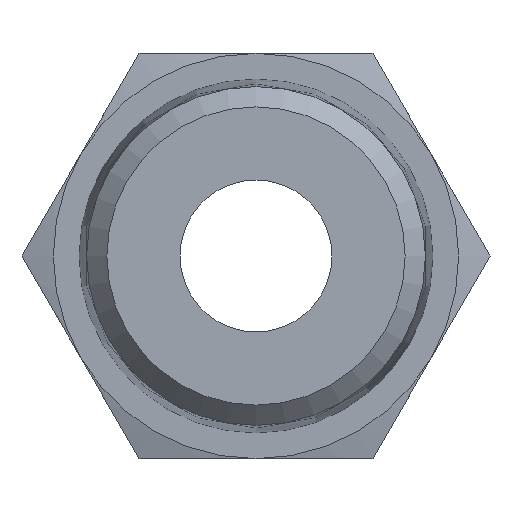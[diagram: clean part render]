
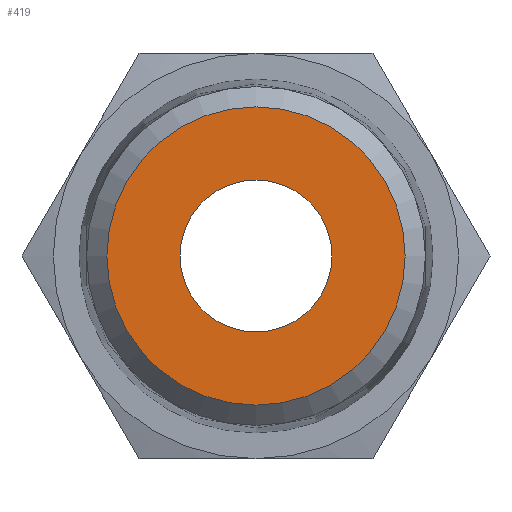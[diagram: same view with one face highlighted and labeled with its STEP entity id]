
A CAD part, left-side view. The second image highlights one B-rep face of the part: STEP entity #419.
In plain terms, the highlighted planar face has unit normal (-1, 0, 0).
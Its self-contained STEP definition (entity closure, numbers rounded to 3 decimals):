
#37=PLANE('',#476);
#59=CIRCLE('',#477,8.832);
#60=CIRCLE('',#478,4.5);
#108=ORIENTED_EDGE('',*,*,#218,.F.);
#109=ORIENTED_EDGE('',*,*,#219,.T.);
#218=EDGE_CURVE('',#261,#261,#59,.T.);
#219=EDGE_CURVE('',#262,#262,#60,.T.);
#261=VERTEX_POINT('',#778);
#262=VERTEX_POINT('',#780);
#310=EDGE_LOOP('',(#108));
#311=EDGE_LOOP('',(#109));
#356=FACE_BOUND('',#310,.T.);
#357=FACE_BOUND('',#311,.T.);
#419=ADVANCED_FACE('',(#356,#357),#37,.F.);
#476=AXIS2_PLACEMENT_3D('',#776,#559,#560);
#477=AXIS2_PLACEMENT_3D('',#777,#561,#562);
#478=AXIS2_PLACEMENT_3D('',#779,#563,#564);
#559=DIRECTION('',(1.,0.,0.));
#560=DIRECTION('',(0.,0.,-1.));
#561=DIRECTION('',(1.,0.,0.));
#562=DIRECTION('',(0.,0.,-1.));
#563=DIRECTION('',(1.,0.,0.));
#564=DIRECTION('',(0.,0.,-1.));
#776=CARTESIAN_POINT('',(0.,0.,0.));
#777=CARTESIAN_POINT('',(0.,0.,0.));
#778=CARTESIAN_POINT('',(0.,0.,-8.832));
#779=CARTESIAN_POINT('',(0.,0.,0.));
#780=CARTESIAN_POINT('',(0.,0.,-4.5));
